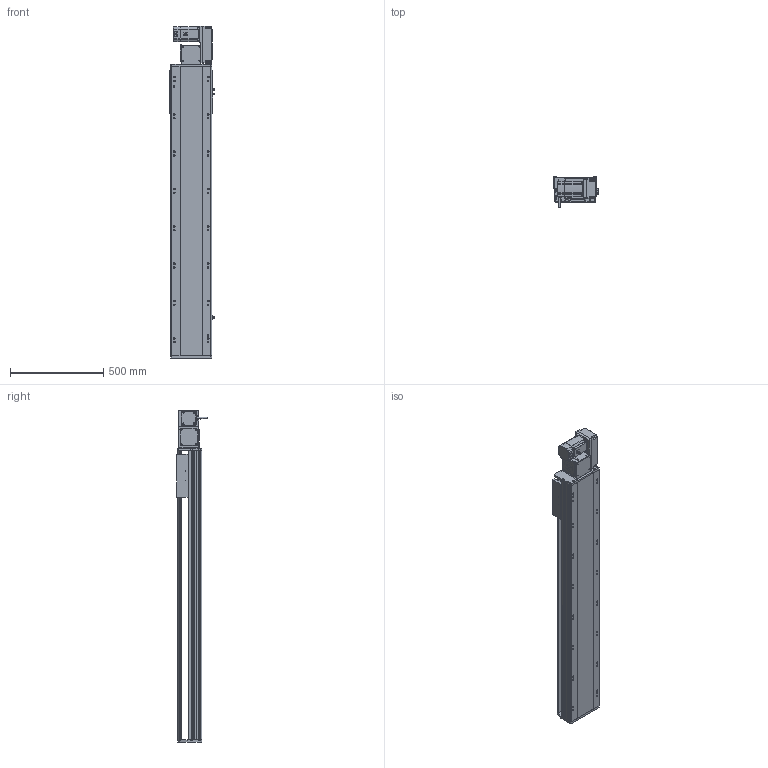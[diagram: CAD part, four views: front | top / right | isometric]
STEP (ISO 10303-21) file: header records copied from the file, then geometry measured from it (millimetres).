
FILE_DESCRIPTION (( 'STEP AP214' ), '1' );
FILE_NAME ('RTB22S-XX-1200-R-M75-C4.STEP', '2025-12-12T07:20:57', ( '' ), ( '' ), 'SwSTEP 2.0', 'SolidWorks 2018', '' );
FILE_SCHEMA (( 'AUTOMOTIVE_DESIGN' ));
Length unit declared in the file: millimetre
Products named in the file (14): RTB22S-R-々湍釱蚾饜^RTB22S-XX-XX-R-M75-C4; RTB22S-XX-1200-R-M75-C4; 750W萇儂^RTB22S-XX-XX-R-M75-C4; OMRON EE-SX672 传感器^RTB22S-XX-XX-R-M75-C4; RTH22-GY-013外置感应片^RTB22S-XX-XX-R-M75-C4; RTB22S-GY-008-M75--萇儂啣^RTB22S-R-々湍釱蚾饜_RTB22S-XX-XX-R-M75-C4; RTB22S-GY-014--々湍釱^RTB22S-R-々湍釱蚾饜_RTB22S-XX-XX-R-M75-C4; RTB22S-GY-001耜裔^RTB22S-XX-XX-R-M75-C4; RTB22S-L-004賑釱^RTB22S-XX-XX-R-M75-C4; RTB22S-GY-017P^RTB22S-R-々湍釱蚾饜_RTB22S-XX-XX-R-M75-C4; RTB22S-GY-018P^RTB22S-R-々湍釱蚾饜_RTB22S-XX-XX-R-M75-C4; RTB22S-GY-005P^RTB22S-R-々湍釱蚾饜_RTB22S-XX-XX-R-M75-C4; RTB22S-L-011菁釱^RTB22S-XX-XX-R-M75-C4; RTB22S-GY-007奻裔^RTB22S-XX-XX-R-M75-C4
Assembly tree (16 placements, depth 3):
  RTB22S-XX-1200-R-M75-C4
    RTB22S-L-011菁釱^RTB22S-XX-XX-R-M75-C4
    RTB22S-GY-001耜裔^RTB22S-XX-XX-R-M75-C4
    750W萇儂^RTB22S-XX-XX-R-M75-C4
    RTB22S-GY-007奻裔^RTB22S-XX-XX-R-M75-C4
    RTB22S-L-004賑釱^RTB22S-XX-XX-R-M75-C4
    RTH22-GY-013外置感应片^RTB22S-XX-XX-R-M75-C4
    OMRON EE-SX672 传感器^RTB22S-XX-XX-R-M75-C4  x3
    RTB22S-R-々湍釱蚾饜^RTB22S-XX-XX-R-M75-C4
      RTB22S-GY-014--々湍釱^RTB22S-R-々湍釱蚾饜_RTB22S-XX-XX-R-M75-C4
      RTB22S-GY-017P^RTB22S-R-々湍釱蚾饜_RTB22S-XX-XX-R-M75-C4  x2
      RTB22S-GY-005P^RTB22S-R-々湍釱蚾饜_RTB22S-XX-XX-R-M75-C4
      RTB22S-GY-008-M75--萇儂啣^RTB22S-R-々湍釱蚾饜_RTB22S-XX-XX-R-M75-C4
      RTB22S-GY-018P^RTB22S-R-々湍釱蚾饜_RTB22S-XX-XX-R-M75-C4
Bounding box: 238.5 x 162.7 x 1779 mm (x, y, z)
Volume: 23623074.3 mm3; surface area: 2448119.5 mm2
Topology: 15 solids, 15 shells, 1983 faces, 5386 edges, 3452 vertices
Faces by surface type: plane 915, cylinder 622, bspline 296, cone 138, sphere 8, torus 4
Entity records: 52768 total; most frequent: CARTESIAN_POINT 15172, ORIENTED_EDGE 7560, DIRECTION 7274, EDGE_CURVE 3780, AXIS2_PLACEMENT_3D 2566, VERTEX_POINT 2456, VECTOR 2142, LINE 2142
